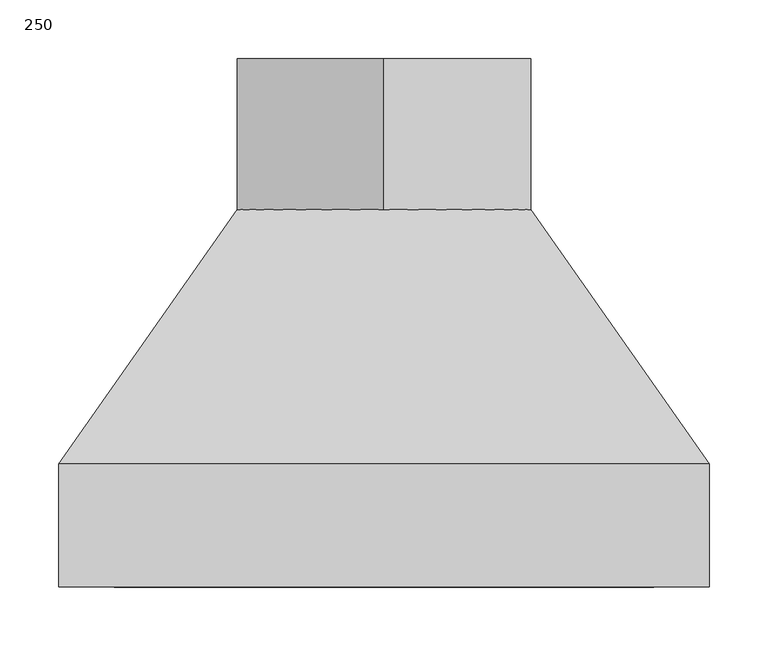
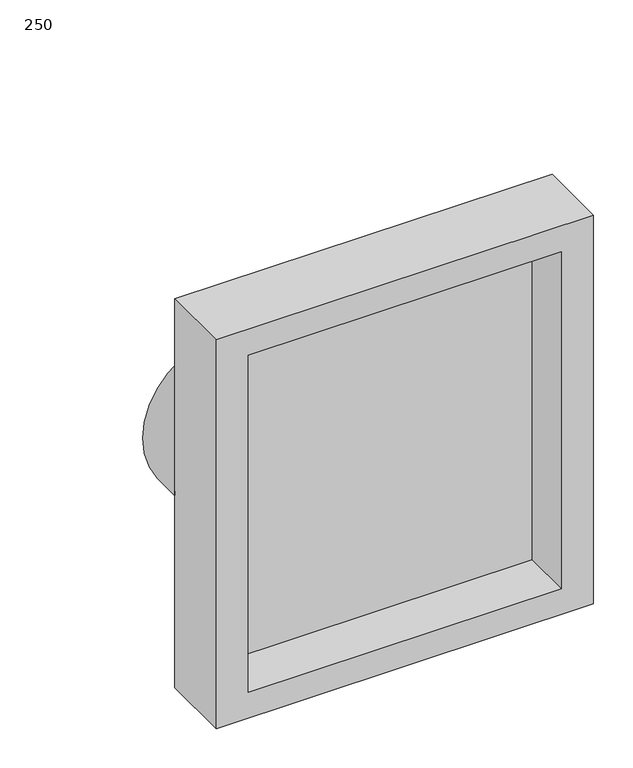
"""IFC4 building model written with IfcOpenShell, lengths in millimetres: valve geometry, Pipelife - Stormbox - Złączka : 250."""

import ifcopenshell
import ifcopenshell.guid

model = None  # the IFC model being written
_history = None  # IfcOwnerHistory: only IFC2X3 demands one
_inside = {}  # id of a spatial element -> (the spatial element, [elements in it])
_under = {}  # id of a project, library or spatial element -> (it, [spatial elements below it])
_declared = {}  # id of a project -> (the project, [libraries it declares])
_typed = {}  # id of a type object -> (the type object, [elements of that type])
_made_of = {}  # id of a material, layer set ... -> (it, [elements and type objects made of it])


def new_model(schema):
    """Start an empty IFC model of exactly this schema.

    Asked for "IFC4X3", IfcOpenShell would pick the latest addendum, in which some entities
    have other attributes; the version numbers below select the first issue.
    IFC2X3 requires an IfcOwnerHistory on every rooted entity: one is made here for all.
    """
    global model, _history
    if schema == "IFC4X3":
        model = ifcopenshell.file(schema_version=(4, 3, 0, 0))
    else:
        model = ifcopenshell.file(schema=schema)
    _inside.clear()
    _under.clear()
    _declared.clear()
    _typed.clear()
    _made_of.clear()
    _history = None
    if model.schema == "IFC2X3":
        org = make("IfcOrganization", Name="unknown")
        user = make(
            "IfcPersonAndOrganization",
            ThePerson=make("IfcPerson", FamilyName="unknown"),
            TheOrganization=org,
        )
        app = make(
            "IfcApplication",
            ApplicationDeveloper=org,
            Version="unknown",
            ApplicationFullName="unknown",
            ApplicationIdentifier="unknown",
        )
        _history = make(
            "IfcOwnerHistory",
            OwningUser=user,
            OwningApplication=app,
            ChangeAction="ADDED",
            CreationDate=0,
        )
    return model


def make(cls, **values):
    """One entity of the class cls with the attributes given. An attribute that is None is left unset."""
    return model.create_entity(
        cls, **{name: value for name, value in values.items() if value is not None}
    )


def rooted(cls, **values):
    """An entity with a GlobalId (a new one), such as an element, a storey or a relation."""
    return make(cls, GlobalId=ifcopenshell.guid.new(), OwnerHistory=_history, **values)


def si_unit(unit_type, name, prefix=None):
    """IfcSIUnit, for example si_unit("LENGTHUNIT", "METRE", prefix="MILLI")."""
    return make("IfcSIUnit", UnitType=unit_type, Prefix=prefix, Name=name)


def assignment(units):
    """IfcUnitAssignment: the units of a project."""
    return None if units is None else make("IfcUnitAssignment", Units=units)


def point(xyz):
    """IfcCartesianPoint."""
    return None if xyz is None else make("IfcCartesianPoint", Coordinates=xyz)


def direction(xyz):
    """IfcDirection."""
    return None if xyz is None else make("IfcDirection", DirectionRatios=xyz)


def frame(location, z_axis=None, x_axis=None):
    """IfcAxis2Placement3D, a coordinate frame: its origin and axes. An axis left out is left unset."""
    return make(
        "IfcAxis2Placement3D",
        Location=point(location),
        Axis=direction(z_axis),
        RefDirection=direction(x_axis),
    )


def frame_2d(location, x_axis=None):
    """IfcAxis2Placement2D, a coordinate frame in the plane: its origin and x axis."""
    return make(
        "IfcAxis2Placement2D", Location=point(location), RefDirection=direction(x_axis)
    )


def origin():
    """The frame at (0, 0, 0) with its axes left unset."""
    return frame((0.0, 0.0, 0.0))


def place(relative_to, where):
    """IfcLocalPlacement: puts the frame where relative to a parent placement (None: the world)."""
    return make(
        "IfcLocalPlacement", PlacementRelTo=relative_to, RelativePlacement=where
    )


def context(
    kind, dimensions, precision=None, world=None, true_north=None, identifier=None
):
    """IfcGeometricRepresentationContext, for example the 3D "Model" context."""
    return make(
        "IfcGeometricRepresentationContext",
        ContextIdentifier=identifier,
        ContextType=kind,
        CoordinateSpaceDimension=dimensions,
        Precision=precision,
        WorldCoordinateSystem=world,
        TrueNorth=true_north,
    )


def project(units=None, contexts=None):
    """IfcProject with its units and contexts."""
    return rooted(
        "IfcProject",
        Name="project",
        RepresentationContexts=contexts,
        UnitsInContext=assignment(units),
    )


def spatial(cls, under=None, at=None, **own):
    """A site, building, storey or space (cls), placed at a placement, below another one or the project."""
    s = rooted(cls, ObjectPlacement=at, **own)
    if under is not None:
        _under.setdefault(under.id(), (under, []))[1].append(s)
    return s


def circle_curve(where, radius):
    """IfcCircle in the frame where."""
    return make("IfcCircle", Position=where, Radius=radius)


def ellipse_curve(where, semi_axis1, semi_axis2):
    """IfcEllipse in the frame where."""
    return make(
        "IfcEllipse", Position=where, SemiAxis1=semi_axis1, SemiAxis2=semi_axis2
    )


def trimmed(basis, trim1, trim2, sense, master):
    """IfcTrimmedCurve: the piece of a basis curve between two trims."""
    return make(
        "IfcTrimmedCurve",
        BasisCurve=basis,
        Trim1=trim1,
        Trim2=trim2,
        SenseAgreement=sense,
        MasterRepresentation=master,
    )


def segment(curve, same_sense, transition):
    """IfcCompositeCurveSegment."""
    return make(
        "IfcCompositeCurveSegment",
        Transition=transition,
        SameSense=same_sense,
        ParentCurve=curve,
    )


def composite_curve(segments, self_intersect=None):
    """IfcCompositeCurve: segments joined end to end."""
    return make("IfcCompositeCurve", Segments=segments, SelfIntersect=self_intersect)


def outline(outer, holes=None, kind="AREA"):
    """IfcArbitraryClosedProfileDef: a profile drawn as a closed curve; with holes, ...WithVoids."""
    if holes is None:
        return make("IfcArbitraryClosedProfileDef", ProfileType=kind, OuterCurve=outer)
    return make(
        "IfcArbitraryProfileDefWithVoids",
        ProfileType=kind,
        OuterCurve=outer,
        InnerCurves=holes,
    )


def extrude(swept, where, along, depth):
    """IfcExtrudedAreaSolid: the profile swept, set in the frame where, extruded along a direction by depth."""
    return make(
        "IfcExtrudedAreaSolid",
        SweptArea=swept,
        Position=where,
        ExtrudedDirection=direction(along),
        Depth=depth,
    )


def faces_of(points, faces, orient=None, outer=None):
    """IfcFace entities. A face is a list of loops; a loop is a list of indices into points, from 0.

    orient and outer hold one flag for each loop. By default every Orientation is true, the
    first loop of a face is its IfcFaceOuterBound and the others are IfcFaceBound.
    """
    made = []
    for i, loops in enumerate(faces):
        bounds = []
        for j, loop in enumerate(loops):
            is_outer = j == 0 if outer is None else outer[i][j]
            bounds.append(
                make(
                    "IfcFaceOuterBound" if is_outer else "IfcFaceBound",
                    Bound=make("IfcPolyLoop", Polygon=[points[k] for k in loop]),
                    Orientation=True if orient is None else orient[i][j],
                )
            )
        made.append(make("IfcFace", Bounds=bounds))
    return made


def faceted_brep(points, faces, orient=None, outer=None, voids=None):
    """IfcFacetedBrep: a solid bounded by flat faces; with voids (closed shells), ...WithVoids."""
    shared = [point(p) for p in points]
    hull = make("IfcClosedShell", CfsFaces=faces_of(shared, faces, orient, outer))
    if voids is None:
        return make("IfcFacetedBrep", Outer=hull)
    return make(
        "IfcFacetedBrepWithVoids",
        Outer=hull,
        Voids=[
            make(cls, CfsFaces=faces_of(shared, fs, o, b)) for cls, fs, o, b in voids
        ],
    )


def shape(context_of_items, identifier, shape_type, items):
    """IfcShapeRepresentation: the items that make up one representation, for example the "Body"."""
    return make(
        "IfcShapeRepresentation",
        ContextOfItems=context_of_items,
        RepresentationIdentifier=identifier,
        RepresentationType=shape_type,
        Items=items,
    )


def source(mapping_origin, context_of_items, identifier, shape_type, items):
    """IfcRepresentationMap: a shape defined once, which mapped items show again and again."""
    return make(
        "IfcRepresentationMap",
        MappingOrigin=mapping_origin,
        MappedRepresentation=shape(context_of_items, identifier, shape_type, items),
    )


def transform(
    local_origin,
    x_axis=None,
    y_axis=None,
    z_axis=None,
    scale=None,
    scale2=None,
    scale3=None,
    uniform=True,
):
    """IfcCartesianTransformationOperator3D, or its non-uniform kind. x_axis, y_axis, z_axis: its Axis1, 2, 3."""
    if uniform:
        return make(
            "IfcCartesianTransformationOperator3D",
            Axis1=direction(x_axis),
            Axis2=direction(y_axis),
            LocalOrigin=point(local_origin),
            Scale=scale,
            Axis3=direction(z_axis),
        )
    return make(
        "IfcCartesianTransformationOperator3DnonUniform",
        Axis1=direction(x_axis),
        Axis2=direction(y_axis),
        LocalOrigin=point(local_origin),
        Scale=scale,
        Axis3=direction(z_axis),
        Scale2=scale2,
        Scale3=scale3,
    )


def mapped(mapping_source, mapping_target):
    """IfcMappedItem: shows the shape of a source again, moved by a transform."""
    return make(
        "IfcMappedItem", MappingSource=mapping_source, MappingTarget=mapping_target
    )


def made_of(thing, what):
    """Note that an element or type object is made of a material, layer set ...; save() writes the relation."""
    if what is not None:
        _made_of.setdefault(what.id(), (what, []))[1].append(thing)
    return thing


def element(
    cls,
    number,
    at=None,
    inside=None,
    cuts=None,
    type_object=None,
    material=None,
    context=None,
    identifier="Body",
    shape_type=None,
    held_by="IfcProductDefinitionShape",
    body=None,
    shapes=None,
    **own,
):
    """One element of the class cls, such as IfcWall. Its Tag is "e" and its number.

    at: its placement. inside: the storey or other place that contains it. cuts: it is an
    opening in that element (IfcRelVoidsElement). A single representation is given by context,
    identifier, shape_type and body (its items); several are given by shapes. held_by: the class
    of the entity that holds the representations. save() writes the other relations.
    """
    e = rooted(cls, Tag="e%d" % number, ObjectPlacement=at, **own)
    if body is not None:
        shapes = [shape(context, identifier, shape_type, body)]
    if shapes is not None:
        e.Representation = make(held_by, Representations=shapes)
    if inside is not None:
        _inside.setdefault(inside.id(), (inside, []))[1].append(e)
    if cuts is not None:
        rooted(
            "IfcRelVoidsElement", RelatingBuildingElement=cuts, RelatedOpeningElement=e
        )
    if type_object is not None:
        _typed.setdefault(type_object.id(), (type_object, []))[1].append(e)
    return made_of(e, material)


def aggregate(whole, parts):
    """IfcRelAggregates: a whole, such as a stair, and the parts it consists of."""
    return rooted("IfcRelAggregates", RelatingObject=whole, RelatedObjects=parts)


def save(model, path):
    """Write the relations noted so far, then the file.

    IfcRelAggregates (storeys below a building ...), IfcRelContainedInSpatialStructure (elements
    in a storey), IfcRelDefinesByType, IfcRelAssociatesMaterial and IfcRelDeclares: one each for
    every whole, place, type object, material and project.
    """
    for whole, parts in _under.values():
        aggregate(whole, parts)
    for where, things in _inside.values():
        rooted(
            "IfcRelContainedInSpatialStructure",
            RelatedElements=things,
            RelatingStructure=where,
        )
    for kind, things in _typed.values():
        rooted("IfcRelDefinesByType", RelatedObjects=things, RelatingType=kind)
    for what, things in _made_of.values():
        rooted("IfcRelAssociatesMaterial", RelatedObjects=things, RelatingMaterial=what)
    for by, libraries in _declared.values():
        rooted("IfcRelDeclares", RelatingContext=by, RelatedDefinitions=libraries)
    model.write(path)


def plane_surface(at):
    """IfcPlane: the flat surface through the origin of the frame at, square to its z axis."""
    return make("IfcPlane", Position=at)


def spline_surface(u_degree, v_degree, points, u_multiplicities, v_multiplicities, u_knots, v_knots, weights=None):
    """IfcBSplineSurfaceWithKnots; with weights, IfcRationalBSplineSurfaceWithKnots. points: one row for each step in u."""
    own = dict(
        UDegree=u_degree,
        VDegree=v_degree,
        ControlPointsList=[[point(p) for p in row] for row in points],
        SurfaceForm="UNSPECIFIED",
        UClosed=False,
        VClosed=False,
        SelfIntersect=False,
        UMultiplicities=u_multiplicities,
        VMultiplicities=v_multiplicities,
        UKnots=u_knots,
        VKnots=v_knots,
        KnotSpec="UNSPECIFIED",
    )
    if weights is None:
        return make("IfcBSplineSurfaceWithKnots", **own)
    return make("IfcRationalBSplineSurfaceWithKnots", WeightsData=weights, **own)


def advanced_brep(points, edges, surfaces, faces):
    """IfcAdvancedBrep: a solid bounded by faces that lie on surfaces and meet in shared edges.

    An edge is (start, end): straight between two places in points (the first is 0);
    or (start, end, curve); or (start, end, curve, False) where it runs against its curve.
    A face is (place in surfaces, loops), or (place, loops, False) where it looks against
    its surface's normal. A loop lists edges by number (the first is 1), with a minus sign
    where the edge is run from its end to its start. The first loop is the outer one.
    """
    corners = [point(p) for p in points]
    vertices = [make("IfcVertexPoint", VertexGeometry=c) for c in corners]
    made = []
    for start, end, *more in edges:
        made.append(
            make(
                "IfcEdgeCurve",
                EdgeStart=vertices[start],
                EdgeEnd=vertices[end],
                EdgeGeometry=more[0] if more else make("IfcPolyline", Points=[corners[start], corners[end]]),
                SameSense=more[1] if len(more) > 1 else True,
            )
        )
    hull = []
    for where, loops, *sense in faces:
        bounds = []
        for j, loop in enumerate(loops):
            ring = [make("IfcOrientedEdge", EdgeElement=made[abs(k) - 1], Orientation=k > 0) for k in loop]
            bounds.append(
                make(
                    "IfcFaceOuterBound" if j == 0 else "IfcFaceBound",
                    Bound=make("IfcEdgeLoop", EdgeList=ring),
                    Orientation=True,
                )
            )
        hull.append(make("IfcAdvancedFace", Bounds=bounds, FaceSurface=surfaces[where], SameSense=sense[0] if sense else True))
    return make("IfcAdvancedBrep", Outer=make("IfcClosedShell", CfsFaces=hull))


def valve_250_92fb9a75(model_context):
    return source(origin(), model_context, "Body", "SolidModel", [
        faceted_brep([(277.5, 105.0, 605.0), (277.5, 105.0, 0.0), (-277.5, 105.0, 0.0), (-277.5, 105.0, 605.0), (277.5, 0.0, 605.0), (-277.5, 0.0, 605.0), (-277.5, 0.0, 0.0), (277.5, 0.0, 0.0), (-230.0, 0.0, 564.5), (230.0, 0.0, 564.5), (230.0, 0.0, 40.5), (-230.0, 0.0, 40.5), (230.0, 74.0, 564.5), (-230.0, 74.0, 564.5), (-230.0, 74.0, 40.5), (230.0, 74.0, 40.5)], [[[0, 1, 2, 3]], [[4, 5, 6, 7], [8, 9, 10, 11]], [[1, 0, 4, 7]], [[2, 1, 7, 6]], [[3, 2, 6, 5]], [[0, 3, 5, 4]], [[12, 13, 14, 15]], [[13, 12, 9, 8]], [[14, 13, 8, 11]], [[15, 14, 11, 10]], [[12, 15, 10, 9]]]),
        advanced_brep(
        [(277.5, 105.0, 302.5), (-277.5, 105.0, 302.5), (125.0, 322.0, 125.0), (-125.0, 322.0, 125.0)],
        [
            (0, 1, ellipse_curve(frame((0.0, 105.0, 302.5), z_axis=(0.0, -1.0, 0.0), x_axis=(-1.0, 0.0, 0.0)), 277.5, 302.5)),
            (1, 0, ellipse_curve(frame((0.0, 105.0, 302.5), z_axis=(0.0, -1.0, 0.0), x_axis=(-1.0, 0.0, 0.0)), 277.5, 302.5)),
            (2, 3, ellipse_curve(frame((0.0, 322.0, 125.0), z_axis=(0.0, 1.0, 0.0), x_axis=(-1.0, 0.0, 0.0)), 125.0, 125.0)),
            (3, 2, ellipse_curve(frame((0.0, 322.0, 125.0), z_axis=(0.0, 1.0, 0.0), x_axis=(-1.0, 0.0, 0.0)), 125.0, 125.0)),
            (3, 1),
            (0, 2),
        ],
        [
            plane_surface(frame((0.0, 105.0, 302.5), z_axis=(0.0, -1.0, 0.0), x_axis=(0.0, 0.0, -1.0))),
            plane_surface(frame((0.0, 322.0, 125.0), z_axis=(0.0, 1.0, 0.0), x_axis=(0.0, 0.0, -1.0))),
            spline_surface(2, 1, [[(125.0, 322.0, 125.0), (277.5, 105.0, 302.5)], [(125.0, 322.0, 250.0), (277.5, 105.0, 605.0)], [(0.0, 322.0, 250.0), (0.0, 105.0, 605.0)], [(-125.0, 322.0, 250.0), (-277.5, 105.0, 605.0)], [(-125.0, 322.0, 125.0), (-277.5, 105.0, 302.5)]], [3, 2, 3], [2, 2], [0.0, 1.0, 2.0], [0.0, 1.0], weights=[[1.0, 1.0], [0.7071067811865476, 0.7071067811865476], [1.0, 1.0], [0.7071067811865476, 0.7071067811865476], [1.0, 1.0]]),
            spline_surface(2, 1, [[(-125.0, 322.0, 125.0), (-277.5, 105.0, 302.5)], [(-125.0, 322.0, 0.0), (-277.5, 105.0, 0.0)], [(0.0, 322.0, 0.0), (0.0, 105.0, 0.0)], [(125.0, 322.0, 0.0), (277.5, 105.0, 0.0)], [(125.0, 322.0, 125.0), (277.5, 105.0, 302.5)]], [3, 2, 3], [2, 2], [0.0, 1.0, 2.0], [0.0, 1.0], weights=[[1.0, 1.0], [0.7071067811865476, 0.7071067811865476], [1.0, 1.0], [0.7071067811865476, 0.7071067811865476], [1.0, 1.0]]),
        ],
        [
            (0, [[1, 2]]),
            (1, [[3, 4]]),
            (2, [[-4, 5, -1, 6]]),
            (3, [[-3, -6, -2, -5]]),
        ],
    ),
        extrude(outline(composite_curve([segment(trimmed(circle_curve(frame_2d((125.0, 0.0)), 125.0), [point((250.0, 0.0))], [point((0.0, 0.0))], False, "CARTESIAN"), True, "CONTINUOUS"), segment(trimmed(circle_curve(frame_2d((125.0, 0.0)), 125.0), [point((0.0, 0.0))], [point((250.0, 0.0))], False, "CARTESIAN"), True, "CONTINUOUS")], self_intersect=False)), frame((0.0, 322.0, 0.0), z_axis=(0.0, 1.0, 0.0), x_axis=(0.0, 0.0, 1.0)), (0.0, 0.0, 1.0), 129.0),
    ])


if __name__ == "__main__":
    model = new_model("IFC4")
    model_context = context("Model", 3, world=origin())
    ifc_project = project(units=[si_unit("LENGTHUNIT", "METRE", prefix="MILLI")], contexts=[model_context])
    site = spatial("IfcSite", under=ifc_project)
    building = spatial("IfcBuilding", under=site)
    placement = place(None, origin())
    valve_250_shape = valve_250_92fb9a75(model_context)
    element("IfcValve", 1, ObjectType="Pipelife - Stormbox - Złączka : 250", at=placement, inside=building, context=model_context, shape_type="MappedRepresentation", body=[
        mapped(valve_250_shape, transform((0.0, 0.0, 0.0), x_axis=(1.0, 0.0, 0.0), y_axis=(0.0, 1.0, 0.0), z_axis=(0.0, 0.0, 1.0))),
    ])
    save(model, "model.ifc")
